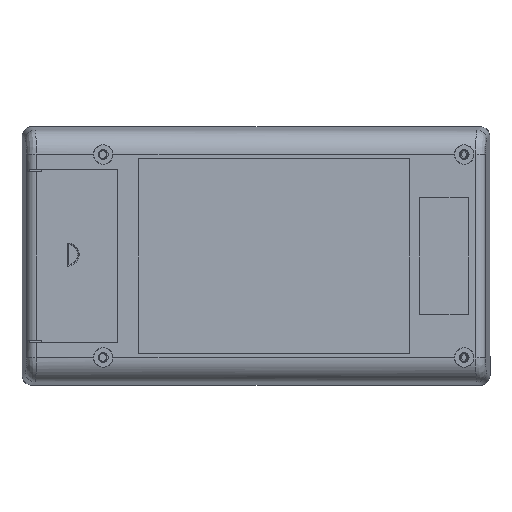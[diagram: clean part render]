
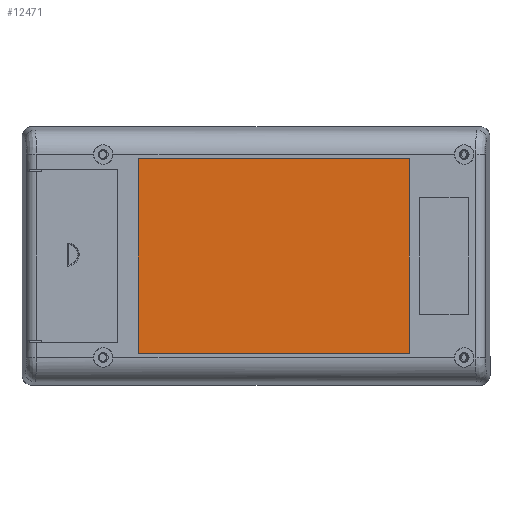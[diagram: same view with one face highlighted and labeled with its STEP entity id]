
A CAD part, front view. The second image highlights one B-rep face of the part: STEP entity #12471.
In plain terms, the highlighted planar face has unit normal (0, -1, 0).
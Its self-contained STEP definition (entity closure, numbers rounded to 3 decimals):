
#345 = DIRECTION ( 'NONE',  ( 0., 0., 1. ) ) ;
#357 = AXIS2_PLACEMENT_3D ( 'NONE', #8994, #6559, #9800 ) ;
#1202 = EDGE_CURVE ( 'NONE', #10467, #5550, #9224, .T. ) ;
#1306 = CARTESIAN_POINT ( 'NONE',  ( 47.595, 0.8, 30.1 ) ) ;
#2168 = CARTESIAN_POINT ( 'NONE',  ( -36.605, 0.8, -30.1 ) ) ;
#2441 = EDGE_CURVE ( 'NONE', #14794, #10467, #8317, .T. ) ;
#3063 = VECTOR ( 'NONE', #7598, 1000. ) ;
#4964 = CARTESIAN_POINT ( 'NONE',  ( -36.605, 0.8, 30.1 ) ) ;
#5550 = VERTEX_POINT ( 'NONE', #13044 ) ;
#6000 = LINE ( 'NONE', #4964, #13882 ) ;
#6116 = ORIENTED_EDGE ( 'NONE', *, *, #1202, .T. ) ;
#6559 = DIRECTION ( 'NONE',  ( 0., -1., 0. ) ) ;
#6841 = FACE_OUTER_BOUND ( 'NONE', #9860, .T. ) ;
#7598 = DIRECTION ( 'NONE',  ( 1., 0., 0. ) ) ;
#7645 = PLANE ( 'NONE',  #357 ) ;
#8086 = VECTOR ( 'NONE', #345, 1000. ) ;
#8317 = LINE ( 'NONE', #13309, #8453 ) ;
#8387 = ORIENTED_EDGE ( 'NONE', *, *, #16141, .T. ) ;
#8453 = VECTOR ( 'NONE', #12023, 1000. ) ;
#8893 = EDGE_CURVE ( 'NONE', #10034, #14794, #6000, .T. ) ;
#8994 = CARTESIAN_POINT ( 'NONE',  ( 0., 0.8, 0. ) ) ;
#9224 = LINE ( 'NONE', #11338, #3063 ) ;
#9800 = DIRECTION ( 'NONE',  ( 0., 0., -1. ) ) ;
#9860 = EDGE_LOOP ( 'NONE', ( #11363, #6116, #8387, #11594 ) ) ;
#10034 = VERTEX_POINT ( 'NONE', #1306 ) ;
#10467 = VERTEX_POINT ( 'NONE', #2168 ) ;
#11338 = CARTESIAN_POINT ( 'NONE',  ( -36.605, 0.8, -30.1 ) ) ;
#11363 = ORIENTED_EDGE ( 'NONE', *, *, #2441, .T. ) ;
#11594 = ORIENTED_EDGE ( 'NONE', *, *, #8893, .T. ) ;
#12023 = DIRECTION ( 'NONE',  ( 0., 0., -1. ) ) ;
#12471 = ADVANCED_FACE ( 'NONE', ( #6841 ), #7645, .T. ) ;
#13044 = CARTESIAN_POINT ( 'NONE',  ( 47.595, 0.8, -30.1 ) ) ;
#13309 = CARTESIAN_POINT ( 'NONE',  ( -36.605, 0.8, 30.1 ) ) ;
#13541 = CARTESIAN_POINT ( 'NONE',  ( 47.595, 0.8, 30.1 ) ) ;
#13882 = VECTOR ( 'NONE', #14175, 1000. ) ;
#14175 = DIRECTION ( 'NONE',  ( -1., 0., 0. ) ) ;
#14736 = CARTESIAN_POINT ( 'NONE',  ( -36.605, 0.8, 30.1 ) ) ;
#14794 = VERTEX_POINT ( 'NONE', #14736 ) ;
#14837 = LINE ( 'NONE', #13541, #8086 ) ;
#16141 = EDGE_CURVE ( 'NONE', #5550, #10034, #14837, .T. ) ;
